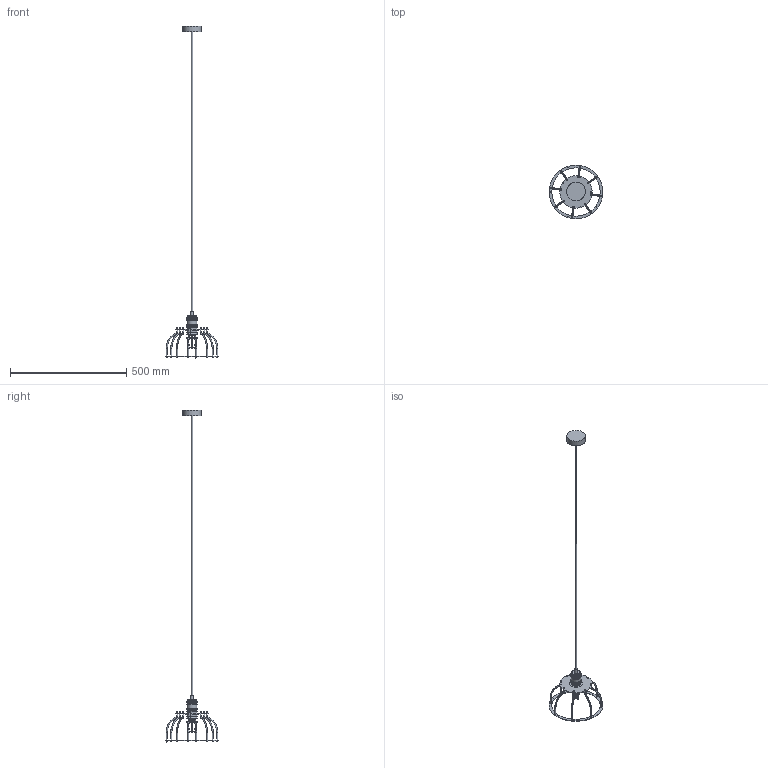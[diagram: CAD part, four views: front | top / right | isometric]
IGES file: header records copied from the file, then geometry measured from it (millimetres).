
Start section: SolidWorks IGES file using analytic representation for surfaces
Global section: file name: X:\PRODUKT\Modele 3D_WWW\_KOLEKCJE WWW\WORKSHOP\WORKSHOP-C-6335\WORKSHOP-C-6335.IGS; native system: SolidWorks 2021; preprocessor: SolidWorks 2021; author: gabriela.tworek; date: 221117.095504; units: millimetre
Bounding box: 232 x 232 x 1429.72 mm (x, y, z)
Surface area: 134736.9 mm2 (no closed solid volume)
Topology: 0 solids, 0 shells, 400 faces, 1626 edges, 1519 vertices
Faces by surface type: bspline 263, revolution 137
